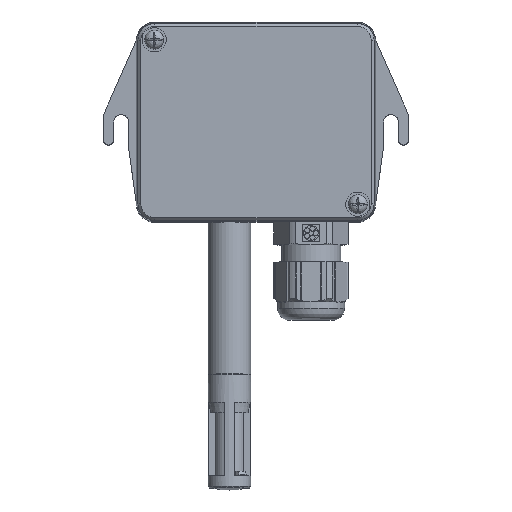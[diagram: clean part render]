
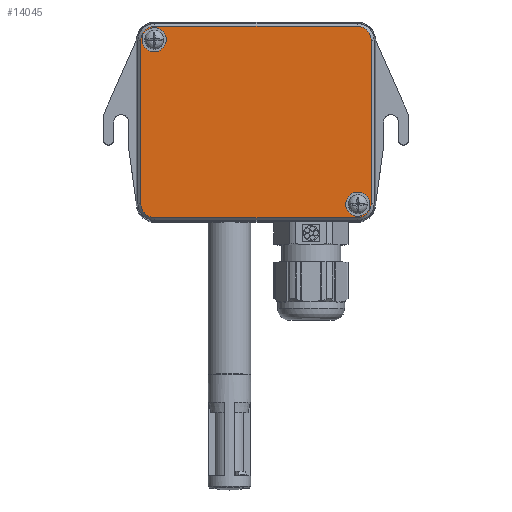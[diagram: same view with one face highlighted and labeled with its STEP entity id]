
A CAD part, top view. The second image highlights one B-rep face of the part: STEP entity #14045.
In plain terms, the highlighted planar face has unit normal (0, 0, 1).
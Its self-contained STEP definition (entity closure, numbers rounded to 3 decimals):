
#205 = ORIENTED_EDGE ( 'NONE', *, *, #18667, .T. ) ;
#668 = VERTEX_POINT ( 'NONE', #26997 ) ;
#721 = VECTOR ( 'NONE', #12784, 1000. ) ;
#795 = DIRECTION ( 'NONE',  ( 0., 0., 1. ) ) ;
#1014 = CARTESIAN_POINT ( 'NONE',  ( -28.666, 27.078, 7.571 ) ) ;
#1158 = AXIS2_PLACEMENT_3D ( 'NONE', #5928, #17559, #13337 ) ;
#1173 = LINE ( 'NONE', #10682, #721 ) ;
#1669 = DIRECTION ( 'NONE',  ( 1., 0., 0. ) ) ;
#2134 = AXIS2_PLACEMENT_3D ( 'NONE', #15458, #13053, #26916 ) ;
#2327 = ORIENTED_EDGE ( 'NONE', *, *, #8925, .T. ) ;
#2730 = DIRECTION ( 'NONE',  ( 1., 0., 0. ) ) ;
#3401 = CARTESIAN_POINT ( 'NONE',  ( 28.507, -23.034, 7.571 ) ) ;
#3768 = PLANE ( 'NONE',  #11687 ) ;
#4061 = EDGE_LOOP ( 'NONE', ( #16783, #205 ) ) ;
#4554 = CIRCLE ( 'NONE', #11329, 3.4 ) ;
#4643 = CARTESIAN_POINT ( 'NONE',  ( -32.604, 23.139, 7.571 ) ) ;
#5096 = DIRECTION ( 'NONE',  ( 0., 0., -1. ) ) ;
#5322 = EDGE_CURVE ( 'NONE', #28781, #13087, #16343, .T. ) ;
#5414 = LINE ( 'NONE', #14623, #11711 ) ;
#5427 = EDGE_CURVE ( 'NONE', #22885, #20760, #9112, .T. ) ;
#5928 = CARTESIAN_POINT ( 'NONE',  ( -28.841, 23.314, 7.571 ) ) ;
#6165 = CARTESIAN_POINT ( 'NONE',  ( 25.107, -23.034, 7.571 ) ) ;
#6696 = ORIENTED_EDGE ( 'NONE', *, *, #5322, .T. ) ;
#7008 = CARTESIAN_POINT ( 'NONE',  ( -28.666, -26.798, 7.571 ) ) ;
#7272 = EDGE_LOOP ( 'NONE', ( #20006, #12845 ) ) ;
#7573 = CARTESIAN_POINT ( 'NONE',  ( 28.332, 23.139, 7.571 ) ) ;
#7775 = VERTEX_POINT ( 'NONE', #18723 ) ;
#7876 = AXIS2_PLACEMENT_3D ( 'NONE', #16852, #26499, #15198 ) ;
#8438 = VECTOR ( 'NONE', #19865, 1000. ) ;
#8572 = CARTESIAN_POINT ( 'NONE',  ( -32.604, 0.14, 7.571 ) ) ;
#8612 = FACE_BOUND ( 'NONE', #7272, .T. ) ;
#8755 = CARTESIAN_POINT ( 'NONE',  ( -0.167, 0.14, 7.571 ) ) ;
#8925 = EDGE_CURVE ( 'NONE', #7775, #22885, #5414, .T. ) ;
#9047 = VERTEX_POINT ( 'NONE', #6165 ) ;
#9112 = CIRCLE ( 'NONE', #13437, 3.938 ) ;
#9508 = EDGE_CURVE ( 'NONE', #12749, #9047, #18813, .T. ) ;
#10131 = LINE ( 'NONE', #21572, #23924 ) ;
#10260 = DIRECTION ( 'NONE',  ( 0., 1., 0. ) ) ;
#10682 = CARTESIAN_POINT ( 'NONE',  ( -0.167, 27.078, 7.571 ) ) ;
#11082 = CARTESIAN_POINT ( 'NONE',  ( -28.666, 23.139, 7.571 ) ) ;
#11320 = FACE_BOUND ( 'NONE', #4061, .T. ) ;
#11329 = AXIS2_PLACEMENT_3D ( 'NONE', #25598, #5096, #14302 ) ;
#11687 = AXIS2_PLACEMENT_3D ( 'NONE', #8755, #20209, #1669 ) ;
#11711 = VECTOR ( 'NONE', #10260, 1000. ) ;
#12305 = CARTESIAN_POINT ( 'NONE',  ( -32.241, 23.314, 7.571 ) ) ;
#12749 = VERTEX_POINT ( 'NONE', #13900 ) ;
#12784 = DIRECTION ( 'NONE',  ( -1., 0., 0. ) ) ;
#12845 = ORIENTED_EDGE ( 'NONE', *, *, #9508, .T. ) ;
#13053 = DIRECTION ( 'NONE',  ( 0., 0., 1. ) ) ;
#13070 = AXIS2_PLACEMENT_3D ( 'NONE', #3401, #14728, #23925 ) ;
#13087 = VERTEX_POINT ( 'NONE', #4643 ) ;
#13236 = DIRECTION ( 'NONE',  ( 0., 0., -1. ) ) ;
#13337 = DIRECTION ( 'NONE',  ( -1., 0., 0. ) ) ;
#13437 = AXIS2_PLACEMENT_3D ( 'NONE', #7573, #795, #28376 ) ;
#13900 = CARTESIAN_POINT ( 'NONE',  ( 31.907, -23.034, 7.571 ) ) ;
#14045 = ADVANCED_FACE ( 'NONE', ( #11320, #8612, #17652 ), #3768, .T. ) ;
#14295 = CIRCLE ( 'NONE', #22953, 3.4 ) ;
#14302 = DIRECTION ( 'NONE',  ( -1., 0., 0. ) ) ;
#14623 = CARTESIAN_POINT ( 'NONE',  ( 32.27, 0.14, 7.571 ) ) ;
#14728 = DIRECTION ( 'NONE',  ( 0., 0., -1. ) ) ;
#15198 = DIRECTION ( 'NONE',  ( -1., 0., 0. ) ) ;
#15458 = CARTESIAN_POINT ( 'NONE',  ( 28.332, -22.859, 7.571 ) ) ;
#16051 = ORIENTED_EDGE ( 'NONE', *, *, #16677, .T. ) ;
#16343 = CIRCLE ( 'NONE', #20661, 3.938 ) ;
#16424 = CARTESIAN_POINT ( 'NONE',  ( 28.332, -26.798, 7.571 ) ) ;
#16580 = EDGE_CURVE ( 'NONE', #9047, #12749, #4554, .T. ) ;
#16677 = EDGE_CURVE ( 'NONE', #13087, #18730, #23934, .T. ) ;
#16783 = ORIENTED_EDGE ( 'NONE', *, *, #27957, .T. ) ;
#16852 = CARTESIAN_POINT ( 'NONE',  ( -28.666, -22.859, 7.571 ) ) ;
#17559 = DIRECTION ( 'NONE',  ( 0., 0., -1. ) ) ;
#17652 = FACE_OUTER_BOUND ( 'NONE', #22302, .T. ) ;
#17796 = CARTESIAN_POINT ( 'NONE',  ( 32.27, 23.139, 7.571 ) ) ;
#18667 = EDGE_CURVE ( 'NONE', #668, #20875, #14295, .T. ) ;
#18723 = CARTESIAN_POINT ( 'NONE',  ( 32.27, -22.859, 7.571 ) ) ;
#18730 = VERTEX_POINT ( 'NONE', #27382 ) ;
#18813 = CIRCLE ( 'NONE', #13070, 3.4 ) ;
#19865 = DIRECTION ( 'NONE',  ( 0., -1., 0. ) ) ;
#19971 = CIRCLE ( 'NONE', #2134, 3.938 ) ;
#20006 = ORIENTED_EDGE ( 'NONE', *, *, #16580, .T. ) ;
#20209 = DIRECTION ( 'NONE',  ( 0., 0., 1. ) ) ;
#20254 = DIRECTION ( 'NONE',  ( 0., 0., 1. ) ) ;
#20284 = EDGE_CURVE ( 'NONE', #28964, #24253, #10131, .T. ) ;
#20661 = AXIS2_PLACEMENT_3D ( 'NONE', #11082, #20254, #29451 ) ;
#20760 = VERTEX_POINT ( 'NONE', #24405 ) ;
#20875 = VERTEX_POINT ( 'NONE', #12305 ) ;
#20878 = CIRCLE ( 'NONE', #7876, 3.938 ) ;
#21572 = CARTESIAN_POINT ( 'NONE',  ( -0.167, -26.798, 7.571 ) ) ;
#22302 = EDGE_LOOP ( 'NONE', ( #2327, #22762, #22608, #6696, #16051, #27202, #23400, #26247 ) ) ;
#22419 = DIRECTION ( 'NONE',  ( -1., 0., 0. ) ) ;
#22608 = ORIENTED_EDGE ( 'NONE', *, *, #28820, .T. ) ;
#22762 = ORIENTED_EDGE ( 'NONE', *, *, #5427, .T. ) ;
#22885 = VERTEX_POINT ( 'NONE', #17796 ) ;
#22953 = AXIS2_PLACEMENT_3D ( 'NONE', #24680, #13236, #22419 ) ;
#23400 = ORIENTED_EDGE ( 'NONE', *, *, #20284, .T. ) ;
#23924 = VECTOR ( 'NONE', #2730, 1000. ) ;
#23925 = DIRECTION ( 'NONE',  ( -1., 0., 0. ) ) ;
#23934 = LINE ( 'NONE', #8572, #8438 ) ;
#24253 = VERTEX_POINT ( 'NONE', #16424 ) ;
#24405 = CARTESIAN_POINT ( 'NONE',  ( 28.332, 27.078, 7.571 ) ) ;
#24680 = CARTESIAN_POINT ( 'NONE',  ( -28.841, 23.314, 7.571 ) ) ;
#25598 = CARTESIAN_POINT ( 'NONE',  ( 28.507, -23.034, 7.571 ) ) ;
#26247 = ORIENTED_EDGE ( 'NONE', *, *, #26708, .T. ) ;
#26333 = EDGE_CURVE ( 'NONE', #18730, #28964, #20878, .T. ) ;
#26499 = DIRECTION ( 'NONE',  ( 0., 0., 1. ) ) ;
#26708 = EDGE_CURVE ( 'NONE', #24253, #7775, #19971, .T. ) ;
#26916 = DIRECTION ( 'NONE',  ( -1., 0., 0. ) ) ;
#26997 = CARTESIAN_POINT ( 'NONE',  ( -25.441, 23.314, 7.571 ) ) ;
#27202 = ORIENTED_EDGE ( 'NONE', *, *, #26333, .T. ) ;
#27382 = CARTESIAN_POINT ( 'NONE',  ( -32.604, -22.859, 7.571 ) ) ;
#27957 = EDGE_CURVE ( 'NONE', #20875, #668, #29087, .T. ) ;
#28376 = DIRECTION ( 'NONE',  ( -1., 0., 0. ) ) ;
#28781 = VERTEX_POINT ( 'NONE', #1014 ) ;
#28820 = EDGE_CURVE ( 'NONE', #20760, #28781, #1173, .T. ) ;
#28964 = VERTEX_POINT ( 'NONE', #7008 ) ;
#29087 = CIRCLE ( 'NONE', #1158, 3.4 ) ;
#29451 = DIRECTION ( 'NONE',  ( -1., 0., 0. ) ) ;
